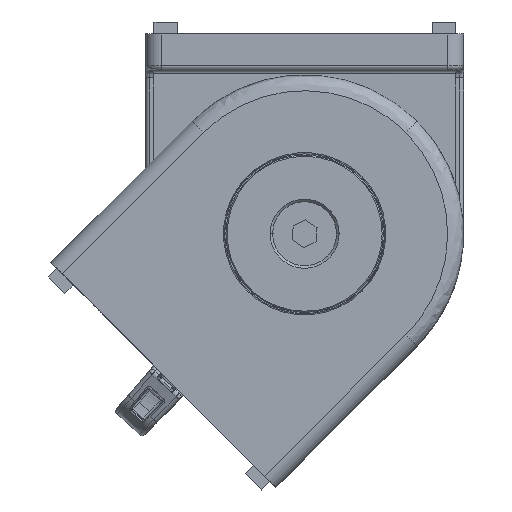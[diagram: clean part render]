
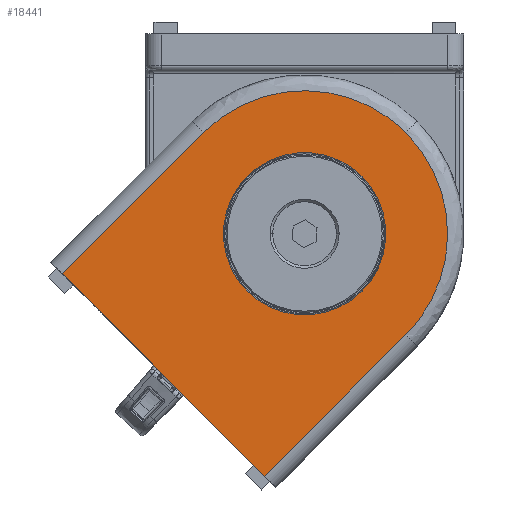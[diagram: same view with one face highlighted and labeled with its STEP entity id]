
A CAD part, front view. The second image highlights one B-rep face of the part: STEP entity #18441.
In plain terms, the highlighted planar face has unit normal (0, -1, 0) as drawn and (0, 1, 0) by its records, which use the part's own axes.
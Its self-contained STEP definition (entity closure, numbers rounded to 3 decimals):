
#406 =( BOUNDED_CURVE ( )  B_SPLINE_CURVE ( 3, ( #31798, #19484, #14395, #9299 ),
 .UNSPECIFIED., .F., .F. ) 
 B_SPLINE_CURVE_WITH_KNOTS ( ( 4, 4 ),
 ( 0., 1. ),
 .UNSPECIFIED. ) 
 CURVE ( )  GEOMETRIC_REPRESENTATION_ITEM ( )  RATIONAL_B_SPLINE_CURVE ( ( 1., 0.805, 0.805, 1. ) ) 
 REPRESENTATION_ITEM ( '' )  );
#634 = VECTOR ( 'NONE', #11926, 1000. ) ;
#709 = AXIS2_PLACEMENT_3D ( 'NONE', #15016, #28249, #18241 ) ;
#1682 = CARTESIAN_POINT ( 'NONE',  ( -35.8, 19.9, -41. ) ) ;
#1913 = LINE ( 'NONE', #8804, #634 ) ;
#2089 = DIRECTION ( 'NONE',  ( 0., 0., -1. ) ) ;
#2383 = PLANE ( 'NONE',  #709 ) ;
#3127 = EDGE_CURVE ( 'NONE', #18876, #14318, #29621, .T. ) ;
#5625 = DIRECTION ( 'NONE',  ( 0., 0., 1. ) ) ;
#6424 = EDGE_CURVE ( 'NONE', #13011, #18315, #30040, .T. ) ;
#7006 = LINE ( 'NONE', #24438, #31746 ) ;
#7136 = FACE_OUTER_BOUND ( 'NONE', #31701, .T. ) ;
#7249 = DIRECTION ( 'NONE',  ( 0., 0., 1. ) ) ;
#7490 = AXIS2_PLACEMENT_3D ( 'NONE', #30232, #27447, #7249 ) ;
#7870 = EDGE_CURVE ( 'NONE', #12408, #13373, #16503, .T. ) ;
#7964 = VERTEX_POINT ( 'NONE', #18836 ) ;
#8066 = ORIENTED_EDGE ( 'NONE', *, *, #14146, .F. ) ;
#8652 = CARTESIAN_POINT ( 'NONE',  ( 0., 19.9, -76.8 ) ) ;
#8756 = CARTESIAN_POINT ( 'NONE',  ( 35.8, 19.9, 9. ) ) ;
#8804 = CARTESIAN_POINT ( 'NONE',  ( -45.5, 19.9, 9. ) ) ;
#9299 = CARTESIAN_POINT ( 'NONE',  ( 35.8, 19.9, -41. ) ) ;
#9758 = DIRECTION ( 'NONE',  ( 0., 0., 1. ) ) ;
#9774 = FACE_BOUND ( 'NONE', #23985, .T. ) ;
#11926 = DIRECTION ( 'NONE',  ( -1., 0., 0. ) ) ;
#12408 = VERTEX_POINT ( 'NONE', #1682 ) ;
#13011 = VERTEX_POINT ( 'NONE', #16547 ) ;
#13373 = VERTEX_POINT ( 'NONE', #15851 ) ;
#14146 = EDGE_CURVE ( 'NONE', #18315, #13011, #25262, .T. ) ;
#14318 = VERTEX_POINT ( 'NONE', #8756 ) ;
#14395 = CARTESIAN_POINT ( 'NONE',  ( 35.8, 19.9, -61.971 ) ) ;
#14672 = CARTESIAN_POINT ( 'NONE',  ( 35.8, 19.9, 0. ) ) ;
#15016 = CARTESIAN_POINT ( 'NONE',  ( 39.8, 19.9, 0. ) ) ;
#15087 = EDGE_CURVE ( 'NONE', #14318, #7964, #1913, .T. ) ;
#15851 = CARTESIAN_POINT ( 'NONE',  ( 0., 19.9, -76.8 ) ) ;
#16503 =( BOUNDED_CURVE ( )  B_SPLINE_CURVE ( 3, ( #18345, #30666, #21302, #8652 ),
 .UNSPECIFIED., .F., .F. ) 
 B_SPLINE_CURVE_WITH_KNOTS ( ( 4, 4 ),
 ( 0., 1. ),
 .UNSPECIFIED. ) 
 CURVE ( )  GEOMETRIC_REPRESENTATION_ITEM ( )  RATIONAL_B_SPLINE_CURVE ( ( 1., 0.805, 0.805, 1. ) ) 
 REPRESENTATION_ITEM ( '' )  );
#16547 = CARTESIAN_POINT ( 'NONE',  ( 0., 19.9, -61.319 ) ) ;
#18241 = DIRECTION ( 'NONE',  ( 0., 0., -1. ) ) ;
#18315 = VERTEX_POINT ( 'NONE', #21799 ) ;
#18345 = CARTESIAN_POINT ( 'NONE',  ( -35.8, 19.9, -41. ) ) ;
#18403 = VECTOR ( 'NONE', #9758, 1000. ) ;
#18441 = ADVANCED_FACE ( 'NONE', ( #7136, #9774 ), #2383, .F. ) ;
#18836 = CARTESIAN_POINT ( 'NONE',  ( -35.8, 19.9, 9. ) ) ;
#18876 = VERTEX_POINT ( 'NONE', #20830 ) ;
#19484 = CARTESIAN_POINT ( 'NONE',  ( 20.971, 19.9, -76.8 ) ) ;
#20530 = AXIS2_PLACEMENT_3D ( 'NONE', #28142, #27817, #5625 ) ;
#20720 = ORIENTED_EDGE ( 'NONE', *, *, #6424, .F. ) ;
#20830 = CARTESIAN_POINT ( 'NONE',  ( 35.8, 19.9, -41. ) ) ;
#21302 = CARTESIAN_POINT ( 'NONE',  ( -20.971, 19.9, -76.8 ) ) ;
#21799 = CARTESIAN_POINT ( 'NONE',  ( 0., 19.9, -20.681 ) ) ;
#21966 = ORIENTED_EDGE ( 'NONE', *, *, #24015, .F. ) ;
#22674 = ORIENTED_EDGE ( 'NONE', *, *, #7870, .F. ) ;
#23230 = EDGE_CURVE ( 'NONE', #13373, #18876, #406, .T. ) ;
#23264 = ORIENTED_EDGE ( 'NONE', *, *, #3127, .F. ) ;
#23499 = ORIENTED_EDGE ( 'NONE', *, *, #23230, .F. ) ;
#23985 = EDGE_LOOP ( 'NONE', ( #8066, #20720 ) ) ;
#24015 = EDGE_CURVE ( 'NONE', #7964, #12408, #7006, .T. ) ;
#24438 = CARTESIAN_POINT ( 'NONE',  ( -35.8, 19.9, 0. ) ) ;
#25054 = ORIENTED_EDGE ( 'NONE', *, *, #15087, .F. ) ;
#25262 = CIRCLE ( 'NONE', #20530, 20.319 ) ;
#27447 = DIRECTION ( 'NONE',  ( 0., 1., 0. ) ) ;
#27817 = DIRECTION ( 'NONE',  ( 0., 1., 0. ) ) ;
#28142 = CARTESIAN_POINT ( 'NONE',  ( 0., 19.9, -41. ) ) ;
#28249 = DIRECTION ( 'NONE',  ( 0., -1., 0. ) ) ;
#29621 = LINE ( 'NONE', #14672, #18403 ) ;
#30040 = CIRCLE ( 'NONE', #7490, 20.319 ) ;
#30232 = CARTESIAN_POINT ( 'NONE',  ( 0., 19.9, -41. ) ) ;
#30666 = CARTESIAN_POINT ( 'NONE',  ( -35.8, 19.9, -61.971 ) ) ;
#31701 = EDGE_LOOP ( 'NONE', ( #21966, #25054, #23264, #23499, #22674 ) ) ;
#31746 = VECTOR ( 'NONE', #2089, 1000. ) ;
#31798 = CARTESIAN_POINT ( 'NONE',  ( 0., 19.9, -76.8 ) ) ;
